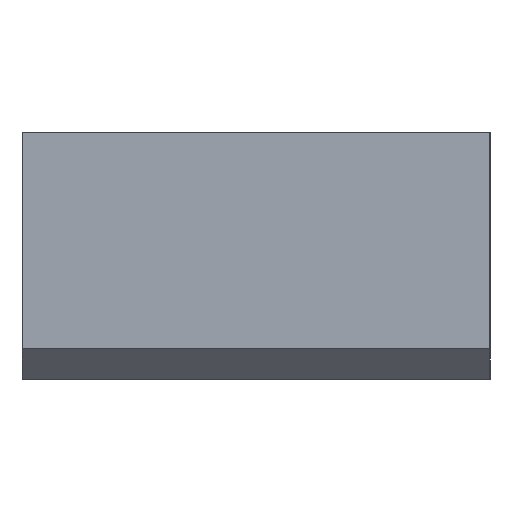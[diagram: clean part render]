
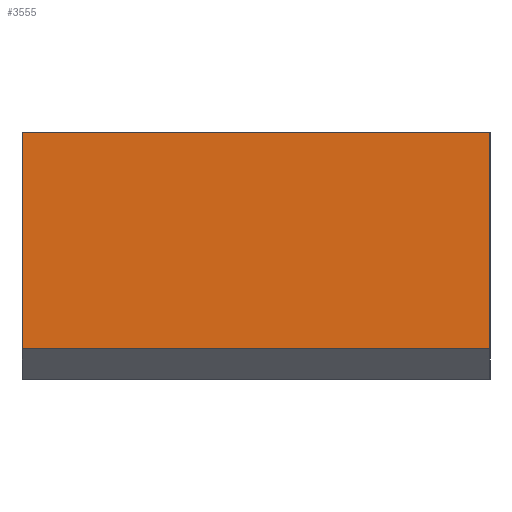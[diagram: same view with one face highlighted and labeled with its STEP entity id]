
A CAD part, left-side view. The second image highlights one B-rep face of the part: STEP entity #3555.
In plain terms, the highlighted planar face has unit normal (-1, 0, 0).
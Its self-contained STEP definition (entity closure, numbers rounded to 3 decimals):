
#174=DIRECTION('',(0.,0.,1.));
#175=VECTOR('',#174,14.);
#176=CARTESIAN_POINT('',(-77.85,-32.65,70.99));
#177=LINE('',#176,#175);
#399=DIRECTION('',(0.,-1.,0.));
#400=VECTOR('',#399,30.3);
#401=CARTESIAN_POINT('',(-77.85,-2.35,70.99));
#402=LINE('',#401,#400);
#403=DIRECTION('',(0.,0.,1.));
#404=VECTOR('',#403,14.);
#405=CARTESIAN_POINT('',(-77.85,-2.35,70.99));
#406=LINE('',#405,#404);
#411=DIRECTION('',(0.,1.,0.));
#412=VECTOR('',#411,30.3);
#413=CARTESIAN_POINT('',(-77.85,-32.65,84.99));
#414=LINE('',#413,#412);
#2925=CARTESIAN_POINT('',(-77.85,-2.35,84.99));
#2927=VERTEX_POINT('',#2925);
#2929=CARTESIAN_POINT('',(-77.85,-32.65,84.99));
#2931=VERTEX_POINT('',#2929);
#2957=CARTESIAN_POINT('',(-77.85,-32.65,70.99));
#2959=VERTEX_POINT('',#2957);
#2963=CARTESIAN_POINT('',(-77.85,-2.35,70.99));
#2964=VERTEX_POINT('',#2963);
#3543=CARTESIAN_POINT('',(-77.85,-2.,84.99));
#3544=DIRECTION('',(-1.,0.,0.));
#3545=DIRECTION('',(0.,0.,-1.));
#3546=AXIS2_PLACEMENT_3D('',#3543,#3544,#3545);
#3547=PLANE('',#3546);
#3548=ORIENTED_EDGE('',*,*,#3341,.F.);
#3549=ORIENTED_EDGE('',*,*,#3212,.T.);
#3551=ORIENTED_EDGE('',*,*,#3550,.F.);
#3552=ORIENTED_EDGE('',*,*,#3352,.F.);
#3553=EDGE_LOOP('',(#3548,#3549,#3551,#3552));
#3554=FACE_OUTER_BOUND('',#3553,.F.);
#3555=ADVANCED_FACE('',(#3554),#3547,.T.);
#3212=EDGE_CURVE('',#2964,#2927,#406,.T.);
#3341=EDGE_CURVE('',#2964,#2959,#402,.T.);
#3352=EDGE_CURVE('',#2959,#2931,#177,.T.);
#3550=EDGE_CURVE('',#2931,#2927,#414,.T.);
